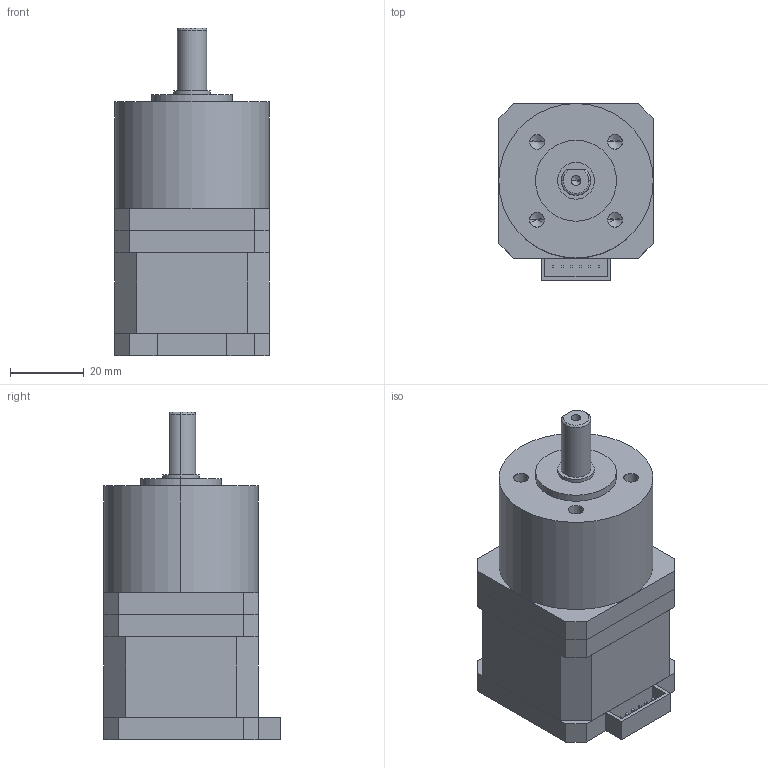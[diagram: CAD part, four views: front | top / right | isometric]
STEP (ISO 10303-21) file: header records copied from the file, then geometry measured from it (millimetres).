
FILE_DESCRIPTION (( 'STEP AP203' ), '1' );
FILE_NAME ('T42PG005-D17-0434.STEP', '2019-10-25T07:54:33', ( 'China' ), ( 'Home' ), 'SwSTEP 2.0', 'SolidWorks 2016', '' );
FILE_SCHEMA (( 'CONFIG_CONTROL_DESIGN' ));
Length unit declared in the file: millimetre
Products named in the file (1): T42PG005-D17-0434
Bounding box: 42 x 48 x 89 mm (x, y, z)
Volume: 110008.6 mm3; surface area: 25451.3 mm2
Topology: 4 solids, 4 shells, 127 faces, 301 edges, 187 vertices
Faces by surface type: plane 87, cylinder 19, cone 18, torus 3
Entity records: 3715 total; most frequent: CARTESIAN_POINT 733, DIRECTION 592, ORIENTED_EDGE 582, EDGE_CURVE 291, LINE 236, VECTOR 236, VERTEX_POINT 187, AXIS2_PLACEMENT_3D 178
